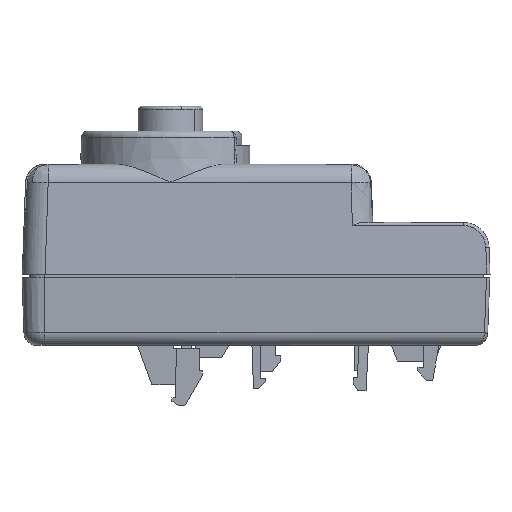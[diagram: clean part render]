
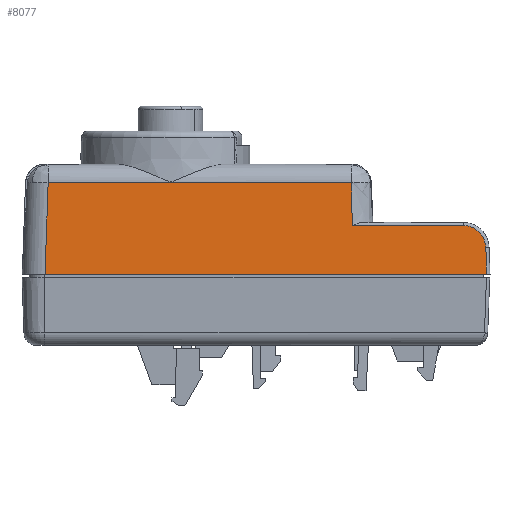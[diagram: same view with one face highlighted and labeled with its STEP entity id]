
A CAD part, left-side view. The second image highlights one B-rep face of the part: STEP entity #8077.
In plain terms, the highlighted planar face has unit normal (-0.999, 0, 0.035) as drawn and (0, -0.999, -0.035) by its records, which use the part's own axes.
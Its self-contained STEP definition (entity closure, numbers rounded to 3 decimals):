
#133 = CARTESIAN_POINT ( 'NONE',  ( -45.158, -14.237, -7.517 ) ) ;
#776 = CARTESIAN_POINT ( 'NONE',  ( -49.3, -14.5, 0. ) ) ;
#826 = LINE ( 'NONE', #12235, #6187 ) ;
#1301 = CARTESIAN_POINT ( 'NONE',  ( -28.019, -14.237, -7.517 ) ) ;
#1526 = LINE ( 'NONE', #9705, #1840 ) ;
#1664 = CARTESIAN_POINT ( 'NONE',  ( -49.3, -14.5, 0. ) ) ;
#1840 = VECTOR ( 'NONE', #10543, 1000. ) ;
#1847 = EDGE_CURVE ( 'NONE', #13470, #8652, #10730, .T. ) ;
#2024 = EDGE_CURVE ( 'NONE', #13565, #2117, #10831, .T. ) ;
#2117 = VERTEX_POINT ( 'NONE', #7900 ) ;
#2397 = VERTEX_POINT ( 'NONE', #10256 ) ;
#2996 = DIRECTION ( 'NONE',  ( 0.035, -0.035, 0.999 ) ) ;
#3074 = ORIENTED_EDGE ( 'NONE', *, *, #3450, .T. ) ;
#3450 = EDGE_CURVE ( 'NONE', #12766, #13470, #5121, .T. ) ;
#3542 = CARTESIAN_POINT ( 'NONE',  ( -28.01, -14.229, -7.765 ) ) ;
#3771 = CARTESIAN_POINT ( 'NONE',  ( -27.943, -14.007, -14.105 ) ) ;
#3786 = CARTESIAN_POINT ( 'NONE',  ( -28.019, -14.237, -7.517 ) ) ;
#3966 = ORIENTED_EDGE ( 'NONE', *, *, #1847, .T. ) ;
#4019 = AXIS2_PLACEMENT_3D ( 'NONE', #1664, #5098, #9624 ) ;
#4020 = CARTESIAN_POINT ( 'NONE',  ( -27.943, -14.007, -14.105 ) ) ;
#4062 = EDGE_CURVE ( 'NONE', #8652, #13565, #6998, .T. ) ;
#4268 = ORIENTED_EDGE ( 'NONE', *, *, #12985, .F. ) ;
#4333 = ORIENTED_EDGE ( 'NONE', *, *, #11952, .T. ) ;
#5061 = CARTESIAN_POINT ( 'NONE',  ( 19.402, -14.5, 0. ) ) ;
#5098 = DIRECTION ( 'NONE',  ( 0., -0.999, -0.035 ) ) ;
#5121 =( BOUNDED_CURVE ( )  B_SPLINE_CURVE ( 3, ( #10965, #14335, #10817, #6204 ),
 .UNSPECIFIED., .F., .T. ) 
 B_SPLINE_CURVE_WITH_KNOTS ( ( 4, 4 ),
 ( 1.606, 3.142 ),
 .UNSPECIFIED. ) 
 CURVE ( )  GEOMETRIC_REPRESENTATION_ITEM ( )  RATIONAL_B_SPLINE_CURVE ( ( 1., 0.813, 0.813, 1. ) ) 
 REPRESENTATION_ITEM ( '' )  );
#5252 = LINE ( 'NONE', #776, #9476 ) ;
#5536 = DIRECTION ( 'NONE',  ( 1., 0., 0. ) ) ;
#5561 = ORIENTED_EDGE ( 'NONE', *, *, #9874, .T. ) ;
#6181 = VERTEX_POINT ( 'NONE', #5061 ) ;
#6187 = VECTOR ( 'NONE', #2996, 1000. ) ;
#6204 = CARTESIAN_POINT ( 'NONE',  ( -45.158, -14.237, -7.517 ) ) ;
#6367 = FACE_OUTER_BOUND ( 'NONE', #14382, .T. ) ;
#6998 = B_SPLINE_CURVE_WITH_KNOTS ( 'NONE', 3,
 ( #1301, #11594, #3542, #13988, #9343, #11520, #3771 ),
 .UNSPECIFIED., .F., .F.,
 ( 4, 3, 4 ),
 ( -0.01, -0.01, -0.004 ),
 .UNSPECIFIED. ) ;
#7337 = PLANE ( 'NONE',  #4019 ) ;
#7377 = CARTESIAN_POINT ( 'NONE',  ( -49.3, -14.237, -7.517 ) ) ;
#7900 = CARTESIAN_POINT ( 'NONE',  ( 18.91, -14.007, -14.105 ) ) ;
#8077 = ADVANCED_FACE ( 'NONE', ( #6367 ), #7337, .T. ) ;
#8652 = VERTEX_POINT ( 'NONE', #3786 ) ;
#9343 = CARTESIAN_POINT ( 'NONE',  ( -27.934, -14.152, -9.959 ) ) ;
#9476 = VECTOR ( 'NONE', #5536, 1000. ) ;
#9624 = DIRECTION ( 'NONE',  ( 0., 0.035, -0.999 ) ) ;
#9705 = CARTESIAN_POINT ( 'NONE',  ( -48.801, -14.501, 0.017 ) ) ;
#9874 = EDGE_CURVE ( 'NONE', #2117, #6181, #826, .T. ) ;
#10249 = ORIENTED_EDGE ( 'NONE', *, *, #4062, .T. ) ;
#10256 = CARTESIAN_POINT ( 'NONE',  ( -48.8, -14.5, 0. ) ) ;
#10543 = DIRECTION ( 'NONE',  ( 0.035, 0.035, -0.999 ) ) ;
#10687 = ORIENTED_EDGE ( 'NONE', *, *, #2024, .T. ) ;
#10730 = LINE ( 'NONE', #7377, #11438 ) ;
#10817 = CARTESIAN_POINT ( 'NONE',  ( -47.152, -14.237, -7.517 ) ) ;
#10831 = LINE ( 'NONE', #14273, #11932 ) ;
#10965 = CARTESIAN_POINT ( 'NONE',  ( -48.656, -14.355, -4.14 ) ) ;
#11438 = VECTOR ( 'NONE', #11770, 1000. ) ;
#11447 = CARTESIAN_POINT ( 'NONE',  ( -48.656, -14.355, -4.14 ) ) ;
#11520 = CARTESIAN_POINT ( 'NONE',  ( -27.956, -14.08, -12.032 ) ) ;
#11594 = CARTESIAN_POINT ( 'NONE',  ( -28.014, -14.233, -7.641 ) ) ;
#11770 = DIRECTION ( 'NONE',  ( 1., 0., 0. ) ) ;
#11932 = VECTOR ( 'NONE', #14125, 1000. ) ;
#11952 = EDGE_CURVE ( 'NONE', #2397, #12766, #1526, .T. ) ;
#12235 = CARTESIAN_POINT ( 'NONE',  ( 19.319, -14.416, -2.393 ) ) ;
#12766 = VERTEX_POINT ( 'NONE', #11447 ) ;
#12985 = EDGE_CURVE ( 'NONE', #2397, #6181, #5252, .T. ) ;
#13470 = VERTEX_POINT ( 'NONE', #133 ) ;
#13565 = VERTEX_POINT ( 'NONE', #4020 ) ;
#13988 = CARTESIAN_POINT ( 'NONE',  ( -28.006, -14.225, -7.889 ) ) ;
#14125 = DIRECTION ( 'NONE',  ( 1., 0., 0. ) ) ;
#14273 = CARTESIAN_POINT ( 'NONE',  ( -49.3, -14.007, -14.105 ) ) ;
#14335 = CARTESIAN_POINT ( 'NONE',  ( -48.586, -14.286, -6.132 ) ) ;
#14382 = EDGE_LOOP ( 'NONE', ( #3966, #10249, #10687, #5561, #4268, #4333, #3074 ) ) ;
